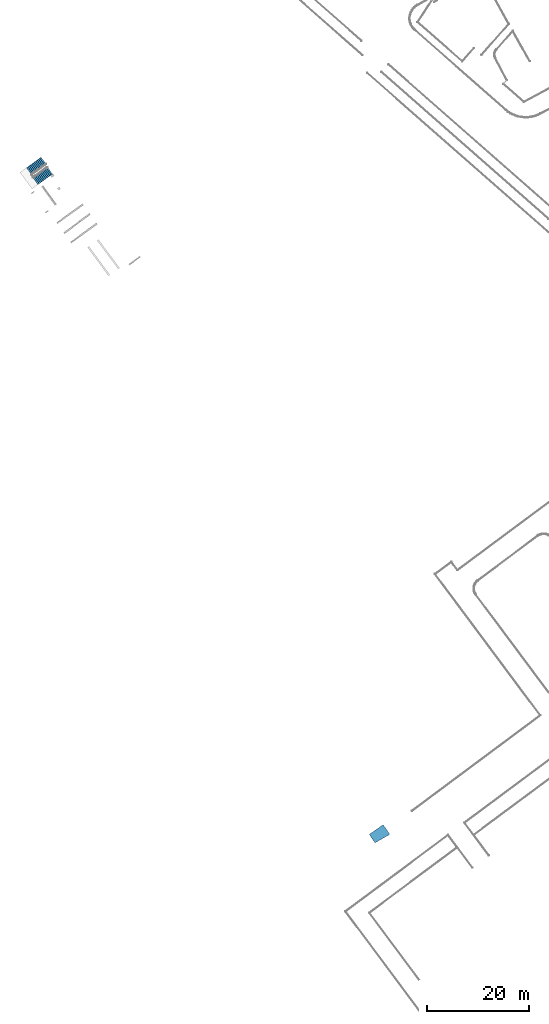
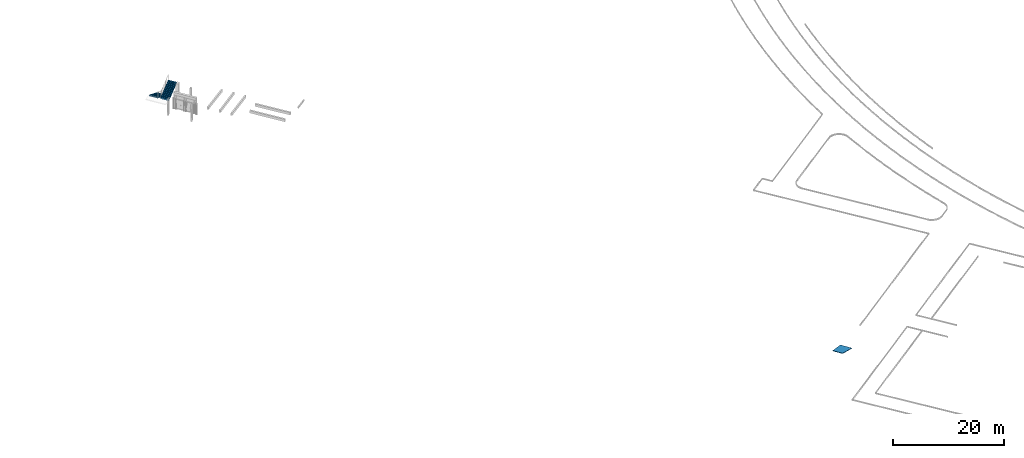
# One storey, part 23 of 24: 2 stair flights, 1 ramp, 1 element without a shape of its own.
"""IFC2X3 building model written with IfcOpenShell, lengths in millimetres."""

from ifc_helpers import new_model, entity, si_unit, converted_unit, derived_unit, direction, frame, origin, place, context, subcontext, project, spatial, faceted_brep, material, material_list, type_object, element, aggregate, save


model = new_model("IFC2X3")

# Units and contexts
model_context = context("Model", 3, precision=0.01, world=origin(), true_north=direction((6.123031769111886e-17, 1.0)))
body_context = subcontext(model_context, "Body", "Model", "MODEL_VIEW")
ifc_project = project(units=[si_unit("LENGTHUNIT", "METRE", prefix="MILLI"), si_unit("AREAUNIT", "SQUARE_METRE"), si_unit("VOLUMEUNIT", "CUBIC_METRE"), converted_unit("PLANEANGLEUNIT", "DEGREE", entity("IfcRatioMeasure", 0.017453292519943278), si_unit("PLANEANGLEUNIT", "RADIAN"), dimensions=[0, 0, 0, 0, 0, 0, 0]), si_unit("MASSUNIT", "GRAM", prefix="KILO"), derived_unit("MASSDENSITYUNIT", [(si_unit("MASSUNIT", "GRAM", prefix="KILO"), 1), (si_unit("LENGTHUNIT", "METRE"), -3)]), derived_unit("MOMENTOFINERTIAUNIT", [(si_unit("LENGTHUNIT", "METRE"), 4)]), si_unit("TIMEUNIT", "SECOND"), si_unit("FREQUENCYUNIT", "HERTZ"), si_unit("THERMODYNAMICTEMPERATUREUNIT", "DEGREE_CELSIUS"), derived_unit("THERMALTRANSMITTANCEUNIT", [(si_unit("MASSUNIT", "GRAM", prefix="KILO"), 1), (si_unit("THERMODYNAMICTEMPERATUREUNIT", "KELVIN"), -1), (si_unit("TIMEUNIT", "SECOND"), -3)]), derived_unit("THERMALCONDUCTANCEUNIT", [(si_unit("MASSUNIT", "GRAM", prefix="KILO"), 1), (si_unit("LENGTHUNIT", "METRE"), 1), (si_unit("THERMODYNAMICTEMPERATUREUNIT", "KELVIN"), -1), (si_unit("TIMEUNIT", "SECOND"), -3)]), derived_unit("VOLUMETRICFLOWRATEUNIT", [(si_unit("LENGTHUNIT", "METRE"), 3), (si_unit("TIMEUNIT", "SECOND"), -1)]), derived_unit("MASSFLOWRATEUNIT", [(si_unit("MASSUNIT", "GRAM", prefix="KILO"), 1), (si_unit("TIMEUNIT", "SECOND"), -1)]), derived_unit("ROTATIONALFREQUENCYUNIT", [(si_unit("TIMEUNIT", "SECOND"), -1)]), si_unit("ELECTRICCURRENTUNIT", "AMPERE"), si_unit("ELECTRICVOLTAGEUNIT", "VOLT"), si_unit("POWERUNIT", "WATT"), converted_unit("FORCEUNIT", "KIP", entity("IfcRatioMeasure", 2.088543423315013e-05), si_unit("FORCEUNIT", "NEWTON"), dimensions=[1, 1, -2, 0, 0, 0, 0]), si_unit("ILLUMINANCEUNIT", "LUX"), si_unit("LUMINOUSFLUXUNIT", "LUMEN"), si_unit("LUMINOUSINTENSITYUNIT", "CANDELA"), derived_unit("USERDEFINED", [(si_unit("MASSUNIT", "GRAM", prefix="KILO"), -1), (si_unit("LENGTHUNIT", "METRE"), -2), (si_unit("TIMEUNIT", "SECOND"), 3), (si_unit("LUMINOUSFLUXUNIT", "LUMEN"), 1)]), derived_unit("USERDEFINED", [(si_unit("MASSUNIT", "GRAM", prefix="KILO"), 1), (si_unit("LENGTHUNIT", "METRE"), 3), (si_unit("TIMEUNIT", "SECOND"), -3), (si_unit("ELECTRICCURRENTUNIT", "AMPERE"), -2)]), derived_unit("USERDEFINED", [(si_unit("LENGTHUNIT", "METRE"), 2), (si_unit("TIMEUNIT", "SECOND"), -2)]), derived_unit("SOUNDPOWERUNIT", [(si_unit("MASSUNIT", "GRAM", prefix="KILO"), 1), (si_unit("LENGTHUNIT", "METRE"), 2), (si_unit("TIMEUNIT", "SECOND"), -3)]), derived_unit("SOUNDPRESSUREUNIT", [(si_unit("MASSUNIT", "GRAM", prefix="KILO"), 1), (si_unit("LENGTHUNIT", "METRE"), -1), (si_unit("TIMEUNIT", "SECOND"), -2)]), derived_unit("LINEARVELOCITYUNIT", [(si_unit("LENGTHUNIT", "METRE"), 1), (si_unit("TIMEUNIT", "SECOND"), -1)]), si_unit("PRESSUREUNIT", "PASCAL"), derived_unit("USERDEFINED", [(si_unit("LENGTHUNIT", "METRE"), -2), (si_unit("MASSUNIT", "GRAM", prefix="KILO"), 1), (si_unit("TIMEUNIT", "SECOND"), -2)]), derived_unit("LINEARFORCEUNIT", [(si_unit("MASSUNIT", "GRAM", prefix="KILO"), 1), (si_unit("LENGTHUNIT", "METRE"), 1), (si_unit("TIMEUNIT", "SECOND"), -2), (si_unit("LENGTHUNIT", "METRE"), -1)]), derived_unit("PLANARFORCEUNIT", [(si_unit("MASSUNIT", "GRAM", prefix="KILO"), 1), (si_unit("LENGTHUNIT", "METRE"), 1), (si_unit("TIMEUNIT", "SECOND"), -2), (si_unit("LENGTHUNIT", "METRE"), -2)]), derived_unit("SPECIFICHEATCAPACITYUNIT", [(si_unit("LENGTHUNIT", "METRE"), 2), (si_unit("TIMEUNIT", "SECOND"), -2), (si_unit("THERMODYNAMICTEMPERATUREUNIT", "KELVIN"), -1)]), derived_unit("VAPORPERMEABILITYUNIT", [(si_unit("TIMEUNIT", "SECOND"), 1), (si_unit("LENGTHUNIT", "METRE"), -1)]), derived_unit("DYNAMICVISCOSITYUNIT", [(si_unit("MASSUNIT", "GRAM", prefix="KILO"), 1), (si_unit("LENGTHUNIT", "METRE"), -1), (si_unit("TIMEUNIT", "SECOND"), -1)]), derived_unit("THERMALEXPANSIONCOEFFICIENTUNIT", [(si_unit("THERMODYNAMICTEMPERATUREUNIT", "KELVIN"), -1)])], contexts=[model_context])

# Site, building, storey
site_placement = place(None, frame((0.0, 0.0, 0.0), z_axis=(0.0, 0.0, 1.0), x_axis=(0.8191520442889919, 0.5735764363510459, 0.0)))
site = spatial("IfcSite", under=ifc_project, at=site_placement, Name="Default", CompositionType="ELEMENT")
building_placement = place(site_placement, origin())
building = spatial("IfcBuilding", under=site, at=building_placement, CompositionType="ELEMENT")
storey_placement = place(building_placement, frame((0.0, 0.0, -1150.0)))
storey = spatial("IfcBuildingStorey", under=building, at=storey_placement, Name="6.EG KH -1.15", CompositionType="ELEMENT", Elevation=-1150.0000000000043)

# Stair, stair flights
stair_placement = place(storey_placement, origin())
stair = element("IfcStair", 1, at=stair_placement, inside=storey, Name="Precast Stair:Stair", ObjectType="Precast Stair:Stair_CJC_KH", ShapeType="HALF_TURN_STAIR")
ifc_material_1 = material(Name="Concrete, Cast-in-Place gray")
ifc_material_2 = material(Name="Analytical Wall Surface_CJC")
ifc_material_list = material_list([ifc_material_1, ifc_material_2])
stair_flight_type = type_object("IfcStairFlightType", Name="Monolithic Run:1mm_Tread-175mm_Depth", PredefinedType="STRAIGHT")
stair_flight_1_placement = place(stair_placement, frame((-189656.5883800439, 195945.7188790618, 0.0)))
stair_flight_1 = element("IfcStairFlight", 2, at=stair_flight_1_placement, type_object=stair_flight_type, material=ifc_material_list, Name="Precast Stair:Stair:623352 Run 1", ObjectType="Monolithic Run:1mm_Tread-175mm_Depth", NumberOfRiser=12, NumberOfTreads=11, RiserHeight=0.5194663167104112, TreadLength=1.0498687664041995, context=body_context, shape_type="Brep", body=[
    faceted_brep([(3225.8870756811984, 49.44779856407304, 158.33333333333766), (3545.8488689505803, 54.392578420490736, 158.33333333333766), (3519.579725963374, 1754.1896051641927, 158.33333333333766), (3199.6179326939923, 1749.2448253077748, 158.33333333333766), (3225.8870756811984, 49.44779856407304, 157.33333333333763), (3199.6179326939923, 1749.2448253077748, 157.33333333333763), (3519.579725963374, 1754.1896051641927, 157.33333333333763), (3545.8488689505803, 54.392578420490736, 157.33333333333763)], [[[0, 1, 2, 3]], [[4, 5, 6, 7]], [[1, 0, 4, 7]], [[2, 1, 7, 6]], [[3, 2, 6, 5]], [[0, 3, 5, 4]]]),
    faceted_brep([(2905.9252824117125, 44.50301870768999, 316.666666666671), (3225.8870756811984, 49.44779856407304, 316.666666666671), (3199.6179326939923, 1749.2448253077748, 316.666666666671), (2879.656139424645, 1744.300045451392, 316.666666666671), (2905.9252824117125, 44.50301870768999, 315.66666666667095), (2879.656139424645, 1744.300045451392, 315.66666666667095), (3199.6179326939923, 1749.2448253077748, 315.66666666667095), (3225.8870756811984, 49.44779856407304, 315.66666666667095)], [[[0, 1, 2, 3]], [[4, 5, 6, 7]], [[1, 0, 4, 7]], [[2, 1, 7, 6]], [[3, 2, 6, 5]], [[0, 3, 5, 4]]]),
    faceted_brep([(2585.9634891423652, 39.55823885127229, 475.0), (2905.925282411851, 44.503018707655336, 475.0), (2879.656139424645, 1744.3000454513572, 475.0), (2559.694346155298, 1739.355265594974, 475.0), (2585.9634891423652, 39.55823885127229, 474.0), (2559.694346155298, 1739.355265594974, 474.0), (2879.656139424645, 1744.3000454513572, 474.0), (2905.925282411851, 44.503018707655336, 474.0)], [[[0, 1, 2, 3]], [[4, 5, 6, 7]], [[1, 0, 4, 7]], [[2, 1, 7, 6]], [[3, 2, 6, 5]], [[0, 3, 5, 4]]]),
    faceted_brep([(2266.001695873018, 34.61345899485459, 633.3333333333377), (2585.963489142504, 39.55823885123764, 633.3333333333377), (2559.694346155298, 1739.3552655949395, 633.3333333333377), (2239.7325528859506, 1734.4104857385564, 633.3333333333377), (2266.001695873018, 34.61345899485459, 632.3333333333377), (2239.7325528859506, 1734.4104857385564, 632.3333333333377), (2559.694346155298, 1739.3552655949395, 632.3333333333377), (2585.963489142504, 39.55823885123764, 632.3333333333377)], [[[0, 1, 2, 3]], [[4, 5, 6, 7]], [[1, 0, 4, 7]], [[2, 1, 7, 6]], [[3, 2, 6, 5]], [[0, 3, 5, 4]]]),
    faceted_brep([(1946.0399026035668, 29.66867913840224, 791.6666666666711), (2266.0016958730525, 34.61345899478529, 791.6666666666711), (2239.732552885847, 1734.410485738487, 791.6666666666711), (1919.7707596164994, 1729.4657058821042, 791.6666666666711), (1946.0399026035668, 29.66867913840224, 790.6666666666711), (1919.7707596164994, 1729.4657058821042, 790.6666666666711), (2239.732552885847, 1734.410485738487, 790.6666666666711), (2266.0016958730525, 34.61345899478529, 790.6666666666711)], [[[0, 1, 2, 3]], [[4, 5, 6, 7]], [[1, 0, 4, 7]], [[2, 1, 7, 6]], [[3, 2, 6, 5]], [[0, 3, 5, 4]]]),
    faceted_brep([(1626.0781093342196, 24.723899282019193, 950.0), (1946.0399026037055, 29.66867913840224, 950.0), (1919.7707596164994, 1729.4657058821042, 950.0), (1599.8089663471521, 1724.520926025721, 950.0), (1626.0781093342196, 24.723899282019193, 949.0), (1599.8089663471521, 1724.520926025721, 949.0), (1919.7707596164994, 1729.4657058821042, 949.0), (1946.0399026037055, 29.66867913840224, 949.0)], [[[0, 1, 2, 3]], [[4, 5, 6, 7]], [[1, 0, 4, 7]], [[2, 1, 7, 6]], [[3, 2, 6, 5]], [[0, 3, 5, 4]]]),
    faceted_brep([(1306.116316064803, 19.779119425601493, 1108.3333333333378), (1626.078109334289, 24.72389928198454, 1108.3333333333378), (1599.8089663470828, 1724.5209260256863, 1108.3333333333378), (1279.8471730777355, 1719.5761461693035, 1108.3333333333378), (1306.116316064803, 19.779119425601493, 1107.3333333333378), (1279.8471730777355, 1719.5761461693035, 1107.3333333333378), (1599.8089663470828, 1724.5209260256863, 1107.3333333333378), (1626.078109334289, 24.72389928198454, 1107.3333333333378)], [[[0, 1, 2, 3]], [[4, 5, 6, 7]], [[1, 0, 4, 7]], [[2, 1, 7, 6]], [[3, 2, 6, 5]], [[0, 3, 5, 4]]]),
    faceted_brep([(986.1545227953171, 14.834339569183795, 1266.666666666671), (1306.116316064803, 19.779119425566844, 1266.666666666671), (1279.847173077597, 1719.5761461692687, 1266.666666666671), (959.8853798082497, 1714.6313663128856, 1266.666666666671), (986.1545227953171, 14.834339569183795, 1265.666666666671), (959.8853798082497, 1714.6313663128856, 1265.666666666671), (1279.847173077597, 1719.5761461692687, 1265.666666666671), (1306.116316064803, 19.779119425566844, 1265.666666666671)], [[[0, 1, 2, 3]], [[4, 5, 6, 7]], [[1, 0, 4, 7]], [[2, 1, 7, 6]], [[3, 2, 6, 5]], [[0, 3, 5, 4]]]),
    faceted_brep([(666.1927295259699, 9.889559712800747, 1425.0), (986.1545227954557, 14.834339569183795, 1425.0), (959.8853798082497, 1714.6313663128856, 1425.0), (639.9235865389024, 1709.6865864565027, 1425.0), (666.1927295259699, 9.889559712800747, 1424.0), (639.9235865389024, 1709.6865864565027, 1424.0), (959.8853798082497, 1714.6313663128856, 1424.0), (986.1545227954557, 14.834339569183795, 1424.0)], [[[0, 1, 2, 3]], [[4, 5, 6, 7]], [[1, 0, 4, 7]], [[2, 1, 7, 6]], [[3, 2, 6, 5]], [[0, 3, 5, 4]]]),
    faceted_brep([(346.2309362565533, 4.944779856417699, 1583.3333333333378), (666.1927295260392, 9.889559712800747, 1583.3333333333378), (639.9235865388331, 1709.6865864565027, 1583.3333333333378), (319.9617932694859, 1704.7418066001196, 1583.3333333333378), (346.2309362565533, 4.944779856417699, 1582.3333333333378), (319.9617932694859, 1704.7418066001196, 1582.3333333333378), (639.9235865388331, 1709.6865864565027, 1582.3333333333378), (666.1927295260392, 9.889559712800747, 1582.3333333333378)], [[[0, 1, 2, 3]], [[4, 5, 6, 7]], [[1, 0, 4, 7]], [[2, 1, 7, 6]], [[3, 2, 6, 5]], [[0, 3, 5, 4]]]),
    faceted_brep([(26.26914298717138, 0.0, 1741.666666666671), (346.23093625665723, 4.944779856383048, 1741.666666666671), (319.9617932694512, 1704.7418066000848, 1741.666666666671), (0.0, 1699.797026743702, 1741.666666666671), (26.26914298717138, 0.0, 1740.666666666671), (0.0, 1699.797026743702, 1740.666666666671), (319.9617932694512, 1704.7418066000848, 1740.666666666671), (346.23093625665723, 4.944779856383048, 1740.666666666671)], [[[0, 1, 2, 3]], [[4, 5, 6, 7]], [[1, 0, 4, 7]], [[2, 1, 7, 6]], [[3, 2, 6, 5]], [[0, 3, 5, 4]]]),
    faceted_brep([(3225.8870756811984, 49.44779856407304, 157.33333333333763), (3545.8488689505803, 54.392578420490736, 157.33333333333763), (3519.579725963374, 1754.1896051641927, 157.33333333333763), (3199.6179326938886, 1749.2448253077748, 157.33333333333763), (3225.8870756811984, 49.44779856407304, 0.0), (3545.8488689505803, 54.392578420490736, 0.0), (3519.579725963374, 1754.1896051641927, 0.0), (3199.6179326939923, 1749.2448253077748, 0.0), (2905.925282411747, 44.50301870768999, 315.66666666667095), (3225.8870756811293, 49.44779856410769, 315.66666666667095), (3199.617932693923, 1749.2448253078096, 315.66666666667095), (2879.6561394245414, 1744.300045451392, 315.66666666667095), (2905.9252824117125, 44.50301870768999, 120.4166332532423), (3149.2645787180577, 48.263652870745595, 0.0), (3122.9954357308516, 1748.060679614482, 0.0), (2879.6561394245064, 1744.300045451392, 120.41663325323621), (2585.9634891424, 39.55823885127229, 474.0), (2905.925282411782, 44.50301870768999, 474.0), (2879.656139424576, 1744.300045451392, 474.0), (2559.694346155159, 1739.355265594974, 474.0), (2585.9634891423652, 39.55823885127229, 278.74996658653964), (2559.694346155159, 1739.355265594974, 278.74996658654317), (2266.0016958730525, 34.61345899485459, 632.3333333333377), (2585.963489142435, 39.55823885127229, 632.3333333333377), (2559.6943461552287, 1739.355265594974, 632.3333333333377), (2239.7325528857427, 1734.4104857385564, 632.3333333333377), (2266.001695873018, 34.61345899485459, 437.0832999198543), (2239.732552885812, 1734.4104857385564, 437.08329991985), (1946.0399026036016, 29.66867913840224, 790.6666666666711), (2266.0016958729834, 34.61345899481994, 790.6666666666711), (2239.7325528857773, 1734.4104857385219, 790.6666666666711), (1919.77075961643, 1729.4657058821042, 790.6666666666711), (1946.0399026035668, 29.66867913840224, 595.4166332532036), (1919.770759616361, 1729.4657058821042, 595.4166332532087), (1626.078109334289, 24.723899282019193, 949.0), (1946.0399026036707, 29.668679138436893, 949.0), (1919.7707596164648, 1729.4657058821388, 949.0), (1599.8089663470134, 1724.5209260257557, 949.0), (1626.0781093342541, 24.723899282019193, 753.7499665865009), (1599.8089663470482, 1724.520926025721, 753.7499665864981), (1306.1163160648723, 19.779119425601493, 1107.3333333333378), (1626.0781093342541, 24.723899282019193, 1107.3333333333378), (1599.8089663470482, 1724.520926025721, 1107.3333333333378), (1279.847173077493, 1719.576146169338, 1107.3333333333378), (1306.1163160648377, 19.779119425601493, 912.0832999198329), (1279.8471730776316, 1719.5761461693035, 912.0832999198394), (986.1545227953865, 14.834339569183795, 1265.666666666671), (1306.1163160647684, 19.779119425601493, 1265.666666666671), (1279.8471730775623, 1719.5761461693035, 1265.666666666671), (959.8853798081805, 1714.6313663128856, 1265.666666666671), (986.1545227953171, 14.834339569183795, 1070.4166332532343), (959.8853798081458, 1714.6313663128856, 1070.416633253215), (666.1927295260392, 9.889559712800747, 1424.0), (986.1545227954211, 14.834339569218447, 1424.0), (959.885379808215, 1714.6313663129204, 1424.0), (639.9235865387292, 1709.6865864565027, 1424.0), (666.1927295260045, 9.889559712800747, 1228.7499665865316), (639.9235865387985, 1709.6865864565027, 1228.7499665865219), (346.2309362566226, 4.944779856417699, 1582.3333333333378), (666.1927295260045, 9.889559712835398, 1582.3333333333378), (639.9235865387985, 1709.6865864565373, 1582.3333333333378), (319.96179326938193, 1704.7418066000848, 1582.3333333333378), (346.2309362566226, 4.944779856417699, 1387.0832999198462), (319.96179326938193, 1704.7418066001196, 1387.0832999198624), (26.269142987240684, 0.0, 1740.666666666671), (346.2309362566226, 4.944779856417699, 1740.666666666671), (319.96179326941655, 1704.7418066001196, 1740.666666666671), (0.0, 1699.797026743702, 1740.666666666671), (26.269142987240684, 0.0, 1699.0), (26.269142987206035, 0.0, 1545.4166332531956), (0.0, 1699.797026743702, 1545.4166332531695)], [[[0, 1, 2, 3]], [[1, 0, 4, 5]], [[2, 1, 5, 6]], [[3, 2, 6, 7]], [[8, 9, 10, 11]], [[4, 0, 9, 8, 12, 13]], [[0, 3, 10, 9]], [[3, 7, 14, 15, 11, 10]], [[16, 17, 18, 19]], [[17, 16, 20, 12, 8]], [[8, 11, 18, 17]], [[19, 18, 11, 15, 21]], [[22, 23, 24, 25]], [[23, 22, 26, 20, 16]], [[16, 19, 24, 23]], [[25, 24, 19, 21, 27]], [[28, 29, 30, 31]], [[29, 28, 32, 26, 22]], [[22, 25, 30, 29]], [[31, 30, 25, 27, 33]], [[34, 35, 36, 37]], [[35, 34, 38, 32, 28]], [[28, 31, 36, 35]], [[37, 36, 31, 33, 39]], [[40, 41, 42, 43]], [[41, 40, 44, 38, 34]], [[34, 37, 42, 41]], [[43, 42, 37, 39, 45]], [[46, 47, 48, 49]], [[47, 46, 50, 44, 40]], [[40, 43, 48, 47]], [[49, 48, 43, 45, 51]], [[52, 53, 54, 55]], [[53, 52, 56, 50, 46]], [[46, 49, 54, 53]], [[55, 54, 49, 51, 57]], [[58, 59, 60, 61]], [[59, 58, 62, 56, 52]], [[52, 55, 60, 59]], [[61, 60, 55, 57, 63]], [[64, 65, 66, 67]], [[65, 64, 68, 69, 62, 58]], [[58, 61, 66, 65]], [[67, 66, 61, 63, 70]], [[64, 67, 70, 69, 68]], [[5, 4, 13, 14, 7, 6]], [[14, 13, 12, 20, 26, 32, 38, 44, 50, 56, 62, 69, 70, 63, 57, 51, 45, 39, 33, 27, 21, 15]]]),
])
stair_flight_2_placement = place(stair_placement, frame((-189747.2238433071, 193643.95982175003, 0.0)))
stair_flight_2 = element("IfcStairFlight", 3, at=stair_flight_2_placement, type_object=stair_flight_type, material=ifc_material_list, Name="Precast Stair:Stair:623352 Run 2", ObjectType="Monolithic Run:1mm_Tread-175mm_Depth", NumberOfRiser=12, NumberOfTreads=11, RiserHeight=0.5194663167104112, TreadLength=1.0498687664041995, context=body_context, shape_type="Brep", body=[
    faceted_brep([(319.96167885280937, 1704.748596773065, 2058.3333333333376), (0.0, 1699.7964189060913, 2058.3333333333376), (26.30844491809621, 0.0, 2058.3333333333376), (346.2701237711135, 4.9521778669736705, 2058.3333333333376), (319.96167885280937, 1704.748596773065, 2057.3333333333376), (346.2701237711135, 4.9521778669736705, 2057.3333333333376), (26.30844491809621, 0.0, 2057.3333333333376), (0.0, 1699.7964189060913, 2057.3333333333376)], [[[0, 1, 2, 3]], [[4, 5, 6, 7]], [[1, 0, 4, 7]], [[2, 1, 7, 6]], [[3, 2, 6, 5]], [[0, 3, 5, 4]]]),
    faceted_brep([(639.9233577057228, 1709.7007746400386, 2216.666666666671), (319.96167885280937, 1704.748596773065, 2216.666666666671), (346.2701237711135, 4.9521778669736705, 2216.666666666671), (666.2318026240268, 9.904355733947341, 2216.666666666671), (639.9233577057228, 1709.7007746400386, 2215.666666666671), (666.2318026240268, 9.904355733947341, 2215.666666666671), (346.2701237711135, 4.9521778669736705, 2215.666666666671), (319.96167885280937, 1704.748596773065, 2215.666666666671)], [[[0, 1, 2, 3]], [[4, 5, 6, 7]], [[1, 0, 4, 7]], [[2, 1, 7, 6]], [[3, 2, 6, 5]], [[0, 3, 5, 4]]]),
    faceted_brep([(959.8850365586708, 1714.652952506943, 2375.0), (639.9233577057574, 1709.7007746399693, 2375.0), (666.2318026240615, 9.904355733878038, 2375.0), (986.1934814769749, 14.856533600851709, 2375.0), (959.8850365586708, 1714.652952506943, 2374.0), (986.1934814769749, 14.856533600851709, 2374.0), (666.2318026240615, 9.904355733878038, 2374.0), (639.9233577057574, 1709.7007746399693, 2374.0)], [[[0, 1, 2, 3]], [[4, 5, 6, 7]], [[1, 0, 4, 7]], [[2, 1, 7, 6]], [[3, 2, 6, 5]], [[0, 3, 5, 4]]]),
    faceted_brep([(1279.8467154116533, 1719.6051303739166, 2533.333333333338), (959.88503655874, 1714.652952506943, 2533.333333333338), (986.1934814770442, 14.856533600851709, 2533.333333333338), (1306.1551603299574, 19.80871146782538, 2533.333333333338), (1279.8467154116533, 1719.6051303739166, 2532.333333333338), (1306.1551603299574, 19.80871146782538, 2532.333333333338), (986.1934814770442, 14.856533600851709, 2532.333333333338), (959.88503655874, 1714.652952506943, 2532.333333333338)], [[[0, 1, 2, 3]], [[4, 5, 6, 7]], [[1, 0, 4, 7]], [[2, 1, 7, 6]], [[3, 2, 6, 5]], [[0, 3, 5, 4]]]),
    faceted_brep([(1599.8083942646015, 1724.5573082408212, 2691.666666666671), (1279.8467154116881, 1719.6051303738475, 2691.666666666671), (1306.1551603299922, 19.808711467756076, 2691.666666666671), (1626.1168391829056, 24.760889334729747, 2691.666666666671), (1599.8083942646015, 1724.5573082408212, 2690.666666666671), (1626.1168391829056, 24.760889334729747, 2690.666666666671), (1306.1551603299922, 19.808711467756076, 2690.666666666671), (1279.8467154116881, 1719.6051303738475, 2690.666666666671)], [[[0, 1, 2, 3]], [[4, 5, 6, 7]], [[1, 0, 4, 7]], [[2, 1, 7, 6]], [[3, 2, 6, 5]], [[0, 3, 5, 4]]]),
    faceted_brep([(1919.7700731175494, 1729.50948610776, 2850.0), (1599.808394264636, 1724.5573082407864, 2850.0), (1626.11683918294, 24.760889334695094, 2850.0), (1946.0785180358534, 29.713067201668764, 2850.0), (1919.7700731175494, 1729.50948610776, 2849.0), (1946.0785180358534, 29.713067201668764, 2849.0), (1626.11683918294, 24.760889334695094, 2849.0), (1599.808394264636, 1724.5573082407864, 2849.0)], [[[0, 1, 2, 3]], [[4, 5, 6, 7]], [[1, 0, 4, 7]], [[2, 1, 7, 6]], [[3, 2, 6, 5]], [[0, 3, 5, 4]]]),
    faceted_brep([(2239.7317519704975, 1734.4616639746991, 3008.333333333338), (1919.7700731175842, 1729.5094861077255, 3008.333333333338), (1946.0785180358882, 29.713067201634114, 3008.333333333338), (2266.0401968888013, 34.66524506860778, 3008.333333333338), (2239.7317519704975, 1734.4616639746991, 3007.333333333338), (2266.0401968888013, 34.66524506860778, 3007.333333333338), (1946.0785180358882, 29.713067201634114, 3007.333333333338), (1919.7700731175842, 1729.5094861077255, 3007.333333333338)], [[[0, 1, 2, 3]], [[4, 5, 6, 7]], [[1, 0, 4, 7]], [[2, 1, 7, 6]], [[3, 2, 6, 5]], [[0, 3, 5, 4]]]),
    faceted_brep([(2559.6934308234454, 1739.413841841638, 3166.666666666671), (2239.731751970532, 1734.4616639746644, 3166.666666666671), (2266.0401968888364, 34.665245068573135, 3166.666666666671), (2586.0018757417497, 39.617422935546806, 3166.666666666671), (2559.6934308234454, 1739.413841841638, 3165.6666666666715), (2586.0018757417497, 39.617422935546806, 3165.6666666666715), (2266.0401968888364, 34.665245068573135, 3165.6666666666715), (2239.731751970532, 1734.4616639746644, 3165.6666666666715)], [[[0, 1, 2, 3]], [[4, 5, 6, 7]], [[1, 0, 4, 7]], [[2, 1, 7, 6]], [[3, 2, 6, 5]], [[0, 3, 5, 4]]]),
    faceted_brep([(2879.6551096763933, 1744.3660197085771, 3325.0), (2559.69343082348, 1739.4138418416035, 3325.0), (2586.0018757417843, 39.61742293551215, 3325.0), (2905.9635545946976, 44.56960080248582, 3325.0), (2879.6551096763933, 1744.3660197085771, 3324.0), (2905.9635545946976, 44.56960080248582, 3324.0), (2586.0018757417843, 39.61742293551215, 3324.0), (2559.69343082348, 1739.4138418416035, 3324.0)], [[[0, 1, 2, 3]], [[4, 5, 6, 7]], [[1, 0, 4, 7]], [[2, 1, 7, 6]], [[3, 2, 6, 5]], [[0, 3, 5, 4]]]),
    faceted_brep([(3199.6167885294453, 1749.3181975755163, 3483.333333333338), (2879.655109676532, 1744.3660197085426, 3483.333333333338), (2905.9635545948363, 44.56960080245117, 3483.333333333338), (3225.9252334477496, 49.52177866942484, 3483.333333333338), (3199.6167885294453, 1749.3181975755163, 3482.3333333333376), (3225.9252334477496, 49.52177866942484, 3482.3333333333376), (2905.9635545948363, 44.56960080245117, 3482.3333333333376), (2879.655109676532, 1744.3660197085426, 3482.3333333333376)], [[[0, 1, 2, 3]], [[4, 5, 6, 7]], [[1, 0, 4, 7]], [[2, 1, 7, 6]], [[3, 2, 6, 5]], [[0, 3, 5, 4]]]),
    faceted_brep([(3519.578467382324, 1754.2703754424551, 3641.666666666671), (3199.6167885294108, 1749.3181975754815, 3641.666666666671), (3225.9252334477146, 49.52177866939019, 3641.666666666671), (3545.886912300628, 54.47395653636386, 3641.666666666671), (3519.578467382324, 1754.2703754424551, 3640.666666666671), (3545.886912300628, 54.47395653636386, 3640.666666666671), (3225.9252334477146, 49.52177866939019, 3640.666666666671), (3199.6167885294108, 1749.3181975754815, 3640.666666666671)], [[[0, 1, 2, 3]], [[4, 5, 6, 7]], [[1, 0, 4, 7]], [[2, 1, 7, 6]], [[3, 2, 6, 5]], [[0, 3, 5, 4]]]),
    faceted_brep([(319.96167885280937, 1704.748596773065, 2057.3333333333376), (0.0, 1699.7964189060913, 2057.3333333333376), (26.30844491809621, 0.0, 2057.3333333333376), (346.2701237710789, 4.9521778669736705, 2057.3333333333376), (319.9616788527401, 1704.748596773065, 1862.0832999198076), (0.0, 1699.7964189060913, 1703.7499665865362), (26.30844491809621, 0.0, 1703.7499665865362), (346.2701237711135, 4.9521778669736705, 1862.0832999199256), (639.9233577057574, 1709.700774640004, 2215.666666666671), (319.961678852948, 1704.7485967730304, 2215.666666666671), (346.2701237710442, 4.952177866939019, 2215.666666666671), (666.2318026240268, 9.90435573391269, 2215.666666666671), (639.9233577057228, 1709.700774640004, 2020.4166332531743), (666.2318026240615, 9.90435573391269, 2020.4166332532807), (959.8850365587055, 1714.6529525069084, 2374.0), (639.923357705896, 1709.7007746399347, 2374.0), (666.2318026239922, 9.904355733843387, 2374.0), (986.1934814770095, 14.856533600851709, 2374.0), (959.8850365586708, 1714.6529525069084, 2178.7499665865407), (986.1934814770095, 14.856533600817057, 2178.7499665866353), (1279.8467154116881, 1719.605130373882, 2532.333333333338), (959.8850365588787, 1714.6529525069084, 2532.333333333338), (986.1934814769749, 14.856533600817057, 2532.333333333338), (1306.1551603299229, 19.80871146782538, 2532.333333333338), (1279.8467154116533, 1719.605130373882, 2337.0832999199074), (1306.1551603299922, 19.808711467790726, 2337.0832999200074), (1599.808394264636, 1724.5573082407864, 2690.666666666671), (1279.8467154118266, 1719.6051303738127, 2690.666666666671), (1306.1551603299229, 19.808711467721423, 2690.666666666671), (1626.1168391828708, 24.760889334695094, 2690.666666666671), (1599.808394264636, 1724.5573082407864, 2495.416633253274), (1626.11683918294, 24.760889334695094, 2495.4166332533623), (1919.7700731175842, 1729.5094861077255, 2849.0), (1599.8083942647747, 1724.5573082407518, 2849.0), (1626.1168391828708, 24.760889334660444, 2849.0), (1946.078518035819, 29.713067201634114, 2849.0), (1919.7700731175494, 1729.5094861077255, 2653.7499665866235), (1946.0785180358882, 29.713067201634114, 2653.749966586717), (2239.731751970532, 1734.4616639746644, 3007.333333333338), (1919.7700731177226, 1729.5094861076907, 3007.333333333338), (1946.078518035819, 29.71306720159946, 3007.333333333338), (2266.0401968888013, 34.665245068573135, 3007.333333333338), (2239.7317519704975, 1734.4616639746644, 2812.0832999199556), (2266.0401968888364, 34.665245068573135, 2812.083299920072), (2559.69343082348, 1739.4138418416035, 3165.6666666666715), (2239.7317519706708, 1734.4616639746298, 3165.6666666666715), (2266.040196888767, 34.66524506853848, 3165.6666666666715), (2586.0018757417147, 39.61742293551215, 3165.6666666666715), (2559.69343082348, 1739.4138418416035, 2970.4166332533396), (2586.0018757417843, 39.61742293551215, 2970.4166332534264), (2879.655109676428, 1744.3660197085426, 3324.0), (2559.6934308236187, 1739.413841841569, 3324.0), (2586.0018757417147, 39.6174229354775, 3324.0), (2905.9635545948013, 44.56960080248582, 3324.0), (2879.6551096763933, 1744.3660197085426, 3128.7499665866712), (2905.963554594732, 44.56960080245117, 3128.7499665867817), (3199.61678852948, 1749.3181975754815, 3482.3333333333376), (2879.6551096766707, 1744.3660197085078, 3482.3333333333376), (2905.9635545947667, 44.56960080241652, 3482.3333333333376), (3225.92523344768, 49.52177866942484, 3482.3333333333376), (3199.6167885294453, 1749.3181975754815, 3287.08329992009), (3225.925233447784, 49.52177866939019, 3287.083299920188), (3519.5784673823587, 1754.2703754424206, 3640.666666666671), (3199.6167885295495, 1749.318197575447, 3640.666666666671), (3225.9252334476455, 49.521778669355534, 3640.666666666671), (3545.886912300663, 54.473956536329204, 3640.666666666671), (3519.5784673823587, 1754.2703754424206, 3445.416633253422), (3545.886912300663, 54.473956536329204, 3445.416633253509)], [[[0, 1, 2, 3]], [[1, 0, 4, 5]], [[2, 1, 5, 6]], [[3, 2, 6, 7]], [[8, 9, 10, 11]], [[9, 8, 12, 4, 0]], [[10, 9, 0, 3]], [[11, 10, 3, 7, 13]], [[14, 15, 16, 17]], [[15, 14, 18, 12, 8]], [[16, 15, 8, 11]], [[17, 16, 11, 13, 19]], [[20, 21, 22, 23]], [[21, 20, 24, 18, 14]], [[22, 21, 14, 17]], [[23, 22, 17, 19, 25]], [[26, 27, 28, 29]], [[27, 26, 30, 24, 20]], [[28, 27, 20, 23]], [[29, 28, 23, 25, 31]], [[32, 33, 34, 35]], [[33, 32, 36, 30, 26]], [[34, 33, 26, 29]], [[35, 34, 29, 31, 37]], [[38, 39, 40, 41]], [[39, 38, 42, 36, 32]], [[40, 39, 32, 35]], [[41, 40, 35, 37, 43]], [[44, 45, 46, 47]], [[45, 44, 48, 42, 38]], [[46, 45, 38, 41]], [[47, 46, 41, 43, 49]], [[50, 51, 52, 53]], [[51, 50, 54, 48, 44]], [[52, 51, 44, 47]], [[53, 52, 47, 49, 55]], [[56, 57, 58, 59]], [[57, 56, 60, 54, 50]], [[58, 57, 50, 53]], [[59, 58, 53, 55, 61]], [[62, 63, 64, 65]], [[63, 62, 66, 60, 56]], [[64, 63, 56, 59]], [[65, 64, 59, 61, 67]], [[62, 65, 67, 66]], [[5, 4, 12, 18, 24, 30, 36, 42, 48, 54, 60, 66, 67, 61, 55, 49, 43, 37, 31, 25, 19, 13, 7, 6]]]),
])
aggregate(stair, [stair_flight_1, stair_flight_2])

# Ramp
ramp_placement = place(storey_placement, frame((-209607.5742852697, 49771.35891435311, 196.78414132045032)))
element("IfcRamp", 4, at=ramp_placement, inside=storey, material=ifc_material_2, Name="Ramp:Rampe_CJC", ObjectType="Ramp:Rampe_CJC", ShapeType="NOTDEFINED", context=body_context, shape_type="Brep", body=[
    faceted_brep([(0.0, 300.0, 953.2158586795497), (3321.450242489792, 0.0, 103.21585867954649), (3350.7306665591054, 2300.0, 103.21585867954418), (25.46123832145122, 2300.0, 953.2158586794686), (0.0, 300.0, 850.0), (25.46123832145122, 2300.0, 850.0), (3350.7306665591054, 2300.0, 0.0), (3321.450242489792, 0.0, 0.0)], [[[0, 1, 2, 3]], [[4, 5, 6, 7]], [[3, 2, 6, 5]], [[0, 3, 5, 4]], [[1, 0, 4, 7]], [[2, 1, 7, 6]]]),
])

save(model, "model.ifc")
